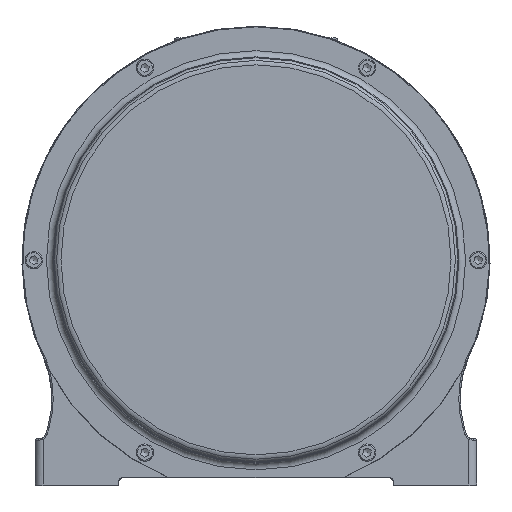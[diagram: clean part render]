
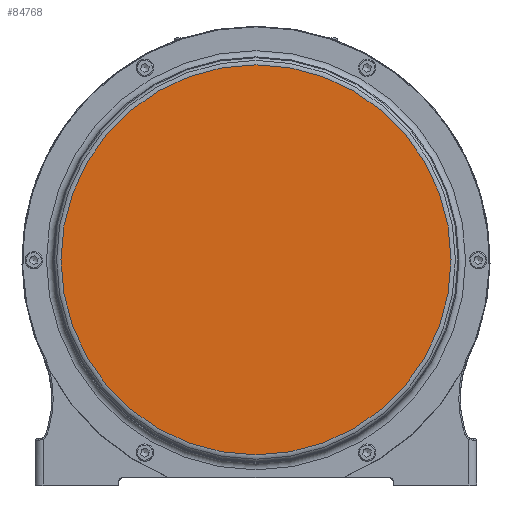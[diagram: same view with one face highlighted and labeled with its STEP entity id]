
A CAD part, top view. The second image highlights one B-rep face of the part: STEP entity #84768.
In plain terms, the highlighted planar face has unit normal (0, 0, 1).
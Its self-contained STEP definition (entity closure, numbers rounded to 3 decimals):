
#25072=FACE_OUTER_BOUND('',#30313,.T.);
#30313=EDGE_LOOP('',(#70245));
#32933=CIRCLE('',#89287,147.5);
#40120=VERTEX_POINT('',#141127);
#50432=EDGE_CURVE('',#40120,#40120,#32933,.T.);
#70245=ORIENTED_EDGE('',*,*,#50432,.F.);
#81592=PLANE('',#89286);
#84768=ADVANCED_FACE('',(#25072),#81592,.T.);
#89286=AXIS2_PLACEMENT_3D('',#141126,#102993,#102994);
#89287=AXIS2_PLACEMENT_3D('',#141128,#102995,#102996);
#102993=DIRECTION('center_axis',(0.,0.,
1.));
#102994=DIRECTION('ref_axis',(1.,0.,0.));
#102995=DIRECTION('center_axis',(0.,0.,
-1.));
#102996=DIRECTION('ref_axis',(0.,1.,0.));
#141126=CARTESIAN_POINT('Origin',(-158.207,8.365,339.));
#141127=CARTESIAN_POINT('',(136.793,8.365,339.));
#141128=CARTESIAN_POINT('Origin',(-10.707,8.365,339.));
